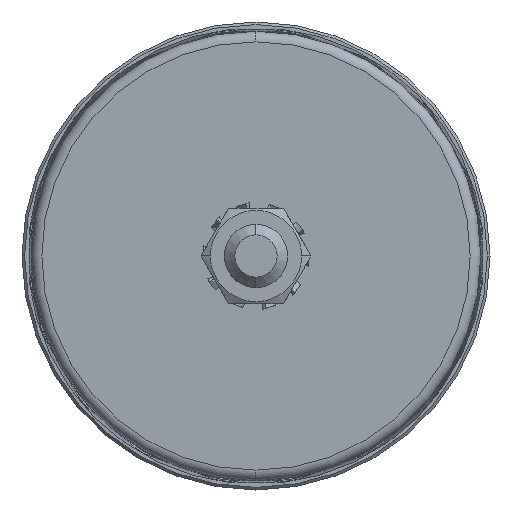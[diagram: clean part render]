
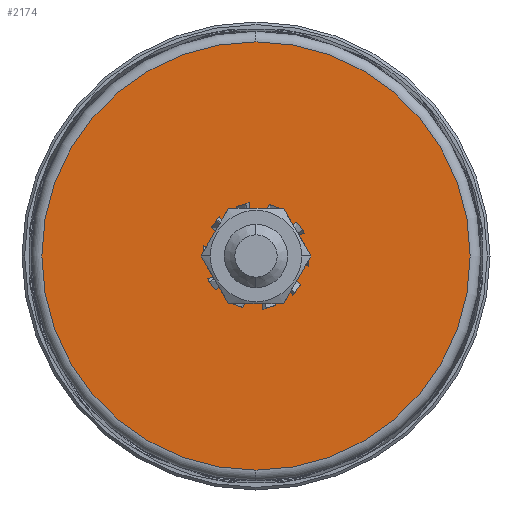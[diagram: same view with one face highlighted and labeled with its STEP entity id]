
A CAD part, front view. The second image highlights one B-rep face of the part: STEP entity #2174.
In plain terms, the highlighted planar face has unit normal (0, -1, 0).
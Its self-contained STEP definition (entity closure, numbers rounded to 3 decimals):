
#271 = DIRECTION ( 'NONE',  ( 0., 0., -1. ) ) ;
#923 = AXIS2_PLACEMENT_3D ( 'NONE', #1099, #10866, #6023 ) ;
#1099 = CARTESIAN_POINT ( 'NONE',  ( 0., 0., 0. ) ) ;
#1387 = DIRECTION ( 'NONE',  ( 0., 1., 0. ) ) ;
#1456 = CIRCLE ( 'NONE', #13042, 40.5 ) ;
#2014 = CARTESIAN_POINT ( 'NONE',  ( 0., 0., 40.5 ) ) ;
#2174 = ADVANCED_FACE ( 'NONE', ( #9760, #7802 ), #4291, .T. ) ;
#2743 = AXIS2_PLACEMENT_3D ( 'NONE', #8743, #1387, #13761 ) ;
#3013 = ORIENTED_EDGE ( 'NONE', *, *, #3628, .T. ) ;
#3395 = CARTESIAN_POINT ( 'NONE',  ( 0., 0., -40.5 ) ) ;
#3628 = EDGE_CURVE ( 'NONE', #4480, #12505, #4724, .T. ) ;
#4291 = PLANE ( 'NONE',  #9784 ) ;
#4480 = VERTEX_POINT ( 'NONE', #5091 ) ;
#4724 = CIRCLE ( 'NONE', #10304, 8. ) ;
#5091 = CARTESIAN_POINT ( 'NONE',  ( 0., 0., 8. ) ) ;
#5682 = DIRECTION ( 'NONE',  ( 0., -1., 0. ) ) ;
#5795 = VERTEX_POINT ( 'NONE', #3395 ) ;
#6006 = ORIENTED_EDGE ( 'NONE', *, *, #13916, .T. ) ;
#6023 = DIRECTION ( 'NONE',  ( 0., 0., -1. ) ) ;
#6796 = DIRECTION ( 'NONE',  ( 0., 1., 0. ) ) ;
#7802 = FACE_OUTER_BOUND ( 'NONE', #9533, .T. ) ;
#7993 = CARTESIAN_POINT ( 'NONE',  ( 0., 0., 0. ) ) ;
#8034 = ORIENTED_EDGE ( 'NONE', *, *, #8595, .T. ) ;
#8595 = EDGE_CURVE ( 'NONE', #8753, #5795, #1456, .T. ) ;
#8687 = CIRCLE ( 'NONE', #2743, 8. ) ;
#8743 = CARTESIAN_POINT ( 'NONE',  ( 0., 0., 0. ) ) ;
#8753 = VERTEX_POINT ( 'NONE', #2014 ) ;
#9533 = EDGE_LOOP ( 'NONE', ( #9735, #8034 ) ) ;
#9603 = CARTESIAN_POINT ( 'NONE',  ( 0., 0., -8. ) ) ;
#9735 = ORIENTED_EDGE ( 'NONE', *, *, #15703, .T. ) ;
#9760 = FACE_BOUND ( 'NONE', #10141, .T. ) ;
#9784 = AXIS2_PLACEMENT_3D ( 'NONE', #15596, #5682, #15510 ) ;
#10141 = EDGE_LOOP ( 'NONE', ( #6006, #3013 ) ) ;
#10304 = AXIS2_PLACEMENT_3D ( 'NONE', #7993, #6796, #10383 ) ;
#10383 = DIRECTION ( 'NONE',  ( 0., 0., -1. ) ) ;
#10866 = DIRECTION ( 'NONE',  ( 0., -1., 0. ) ) ;
#12505 = VERTEX_POINT ( 'NONE', #9603 ) ;
#12605 = CARTESIAN_POINT ( 'NONE',  ( 0., 0., 0. ) ) ;
#13042 = AXIS2_PLACEMENT_3D ( 'NONE', #12605, #13782, #271 ) ;
#13761 = DIRECTION ( 'NONE',  ( 0., 0., -1. ) ) ;
#13782 = DIRECTION ( 'NONE',  ( 0., -1., 0. ) ) ;
#13916 = EDGE_CURVE ( 'NONE', #12505, #4480, #8687, .T. ) ;
#14570 = CIRCLE ( 'NONE', #923, 40.5 ) ;
#15510 = DIRECTION ( 'NONE',  ( 0., 0., -1. ) ) ;
#15596 = CARTESIAN_POINT ( 'NONE',  ( 6., 0., 0. ) ) ;
#15703 = EDGE_CURVE ( 'NONE', #5795, #8753, #14570, .T. ) ;
